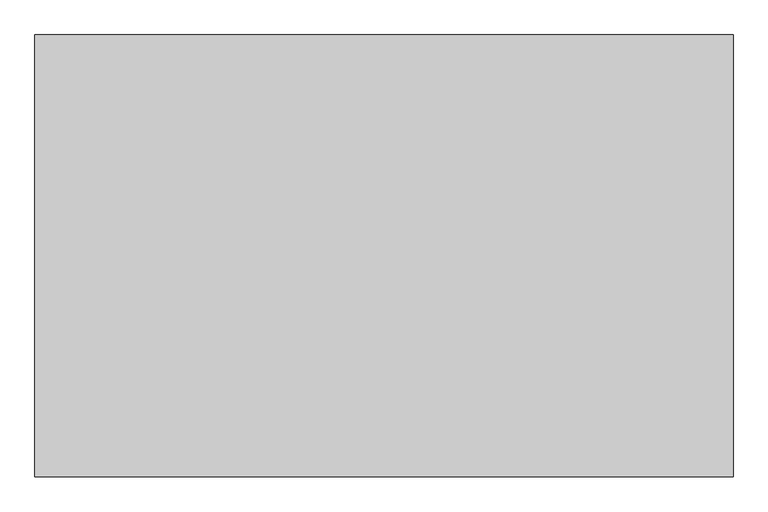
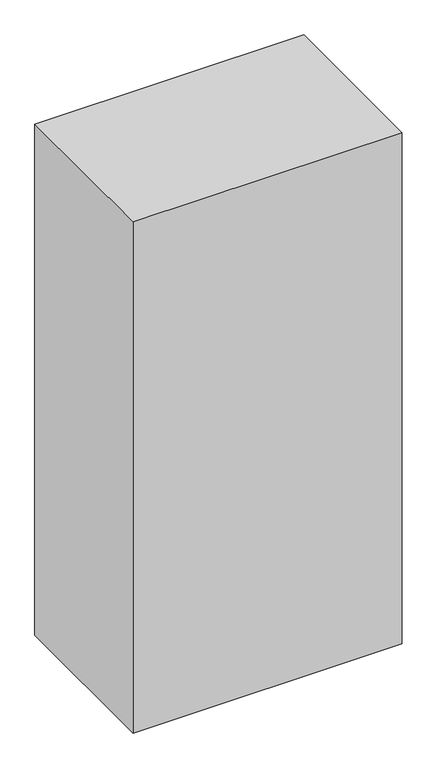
"""IFC4 building model written with IfcOpenShell, lengths in millimetres: furniture geometry, Muebles de obra 2 : Mueble cocina1."""

from ifc_helpers import new_model, si_unit, frame, origin, place, context, project, spatial, polyline, outline, extrude, source, transform, mapped, element, save


def furniture_73ddd999(model_context):
    return source(origin(), model_context, "Body", "SweptSolid", [
        extrude(outline(polyline([(9258.2209239, 3625.420823), (10463.2898894, 3625.420823), (10463.2898894, 2862.7311678), (9258.2209239, 2862.7311678), (9258.2209239, 3625.420823)])), frame((0.0, 0.0, 1430.0), z_axis=(0.0, 0.0, 1.0), x_axis=(1.0, 0.0, 0.0)), (0.0, 0.0, 1.0), 2420.0),
    ])


if __name__ == "__main__":
    model = new_model("IFC4")
    model_context = context("Model", 3, world=origin())
    ifc_project = project(units=[si_unit("LENGTHUNIT", "METRE", prefix="MILLI")], contexts=[model_context])
    site = spatial("IfcSite", under=ifc_project)
    building = spatial("IfcBuilding", under=site)
    placement = place(None, origin())
    furniture_shape = furniture_73ddd999(model_context)
    element("IfcFurniture", 1, ObjectType="Muebles de obra 2 : Mueble cocina1", at=placement, inside=building, context=model_context, shape_type="MappedRepresentation", body=[
        mapped(furniture_shape, transform((0.0, 0.0, 0.0), x_axis=(1.0, 0.0, 0.0), y_axis=(0.0, 1.0, 0.0), z_axis=(0.0, 0.0, 1.0))),
    ])
    save(model, "model.ifc")
